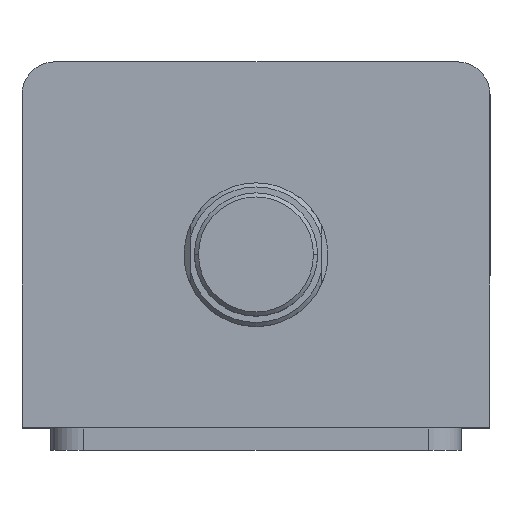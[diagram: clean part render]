
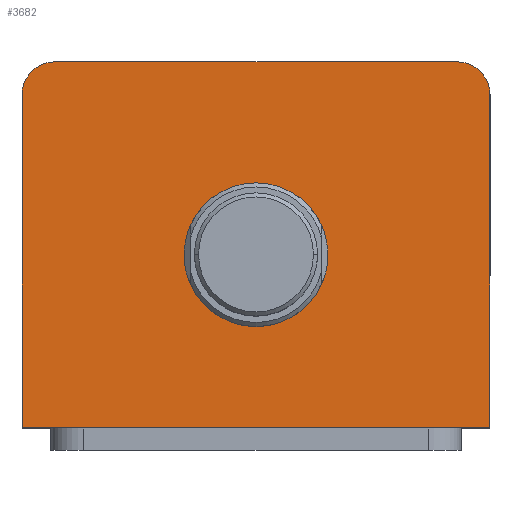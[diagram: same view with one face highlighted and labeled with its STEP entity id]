
A CAD part, top view. The second image highlights one B-rep face of the part: STEP entity #3682.
In plain terms, the highlighted planar face has unit normal (0, 0, 1).
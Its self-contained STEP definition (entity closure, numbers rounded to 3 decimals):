
#26 = CARTESIAN_POINT ( 'NONE',  ( -57., -44.5, 122. ) ) ;
#28 = CARTESIAN_POINT ( 'NONE',  ( 17.5, -2.5, 122. ) ) ;
#29 = CARTESIAN_POINT ( 'NONE',  ( -17.5, -2.5, 122. ) ) ;
#30 = CARTESIAN_POINT ( 'NONE',  ( 57., -44.5, 122. ) ) ;
#114 = VERTEX_POINT ( 'NONE', #410 ) ;
#410 = CARTESIAN_POINT ( 'NONE',  ( -57., 36.5, 122. ) ) ;
#587 = CARTESIAN_POINT ( 'NONE',  ( 57., 36.5, 122. ) ) ;
#626 = EDGE_CURVE ( 'NONE', #1388, #114, #2802, .T. ) ;
#762 = DIRECTION ( 'NONE',  ( 1., 0., 0. ) ) ;
#789 = CARTESIAN_POINT ( 'NONE',  ( -57., -44.5, 122. ) ) ;
#828 = DIRECTION ( 'NONE',  ( 1., 0., 0. ) ) ;
#829 = DIRECTION ( 'NONE',  ( 0., 0., 1. ) ) ;
#830 = CARTESIAN_POINT ( 'NONE',  ( 0., -2.5, 122. ) ) ;
#838 = DIRECTION ( 'NONE',  ( 1., 0., 0. ) ) ;
#839 = DIRECTION ( 'NONE',  ( 0., 0., 1. ) ) ;
#840 = CARTESIAN_POINT ( 'NONE',  ( 0., -2.5, 122. ) ) ;
#1016 = DIRECTION ( 'NONE',  ( 1., 0., 0. ) ) ;
#1017 = DIRECTION ( 'NONE',  ( 0., 0., 1. ) ) ;
#1027 = CARTESIAN_POINT ( 'NONE',  ( 0., 0., 122. ) ) ;
#1029 = PLANE ( 'NONE',  #2359 ) ;
#1137 = ORIENTED_EDGE ( 'NONE', *, *, #1995, .T. ) ;
#1138 = ORIENTED_EDGE ( 'NONE', *, *, #2017, .T. ) ;
#1155 = ORIENTED_EDGE ( 'NONE', *, *, #2032, .T. ) ;
#1156 = ORIENTED_EDGE ( 'NONE', *, *, #1477, .T. ) ;
#1157 = ORIENTED_EDGE ( 'NONE', *, *, #626, .T. ) ;
#1158 = ORIENTED_EDGE ( 'NONE', *, *, #1999, .T. ) ;
#1159 = ORIENTED_EDGE ( 'NONE', *, *, #2041, .F. ) ;
#1160 = ORIENTED_EDGE ( 'NONE', *, *, #2038, .F. ) ;
#1367 = VERTEX_POINT ( 'NONE', #3072 ) ;
#1388 = VERTEX_POINT ( 'NONE', #3069 ) ;
#1477 = EDGE_CURVE ( 'NONE', #114, #2519, #2876, .T. ) ;
#1646 = FACE_BOUND ( 'NONE', #1980, .T. ) ;
#1654 = FACE_OUTER_BOUND ( 'NONE', #1982, .T. ) ;
#1980 = EDGE_LOOP ( 'NONE', ( #1160, #1159 ) ) ;
#1982 = EDGE_LOOP ( 'NONE', ( #1158, #1157, #1156, #1155, #1138, #1137 ) ) ;
#1995 = EDGE_CURVE ( 'NONE', #2635, #1367, #2910, .T. ) ;
#1999 = EDGE_CURVE ( 'NONE', #1367, #1388, #2923, .T. ) ;
#2017 = EDGE_CURVE ( 'NONE', #2523, #2635, #2952, .T. ) ;
#2032 = EDGE_CURVE ( 'NONE', #2519, #2523, #2982, .T. ) ;
#2038 = EDGE_CURVE ( 'NONE', #2521, #2522, #2992, .T. ) ;
#2041 = EDGE_CURVE ( 'NONE', #2522, #2521, #2996, .T. ) ;
#2230 = AXIS2_PLACEMENT_3D ( 'NONE', #3260, #3259, #3258 ) ;
#2278 = AXIS2_PLACEMENT_3D ( 'NONE', #3415, #3414, #3413 ) ;
#2289 = AXIS2_PLACEMENT_3D ( 'NONE', #840, #839, #838 ) ;
#2291 = AXIS2_PLACEMENT_3D ( 'NONE', #830, #829, #828 ) ;
#2359 = AXIS2_PLACEMENT_3D ( 'NONE', #1027, #1017, #1016 ) ;
#2519 = VERTEX_POINT ( 'NONE', #26 ) ;
#2521 = VERTEX_POINT ( 'NONE', #28 ) ;
#2522 = VERTEX_POINT ( 'NONE', #29 ) ;
#2523 = VERTEX_POINT ( 'NONE', #30 ) ;
#2635 = VERTEX_POINT ( 'NONE', #587 ) ;
#2802 = CIRCLE ( 'NONE', #2230, 8. ) ;
#2876 = LINE ( 'NONE', #3441, #2881 ) ;
#2881 = VECTOR ( 'NONE', #3442, 1000. ) ;
#2910 = CIRCLE ( 'NONE', #2278, 8. ) ;
#2923 = LINE ( 'NONE', #3395, #2926 ) ;
#2926 = VECTOR ( 'NONE', #3416, 1000. ) ;
#2952 = LINE ( 'NONE', #3327, #2955 ) ;
#2955 = VECTOR ( 'NONE', #3337, 1000. ) ;
#2982 = LINE ( 'NONE', #789, #2985 ) ;
#2985 = VECTOR ( 'NONE', #762, 1000. ) ;
#2992 = CIRCLE ( 'NONE', #2289, 17.5 ) ;
#2996 = CIRCLE ( 'NONE', #2291, 17.5 ) ;
#3069 = CARTESIAN_POINT ( 'NONE',  ( -49., 44.5, 122. ) ) ;
#3072 = CARTESIAN_POINT ( 'NONE',  ( 49., 44.5, 122. ) ) ;
#3258 = DIRECTION ( 'NONE',  ( 1., 0., 0. ) ) ;
#3259 = DIRECTION ( 'NONE',  ( 0., 0., 1. ) ) ;
#3260 = CARTESIAN_POINT ( 'NONE',  ( -49., 36.5, 122. ) ) ;
#3327 = CARTESIAN_POINT ( 'NONE',  ( 57., 44.5, 122. ) ) ;
#3337 = DIRECTION ( 'NONE',  ( 0., 1., 0. ) ) ;
#3395 = CARTESIAN_POINT ( 'NONE',  ( -57., 44.5, 122. ) ) ;
#3413 = DIRECTION ( 'NONE',  ( 1., 0., 0. ) ) ;
#3414 = DIRECTION ( 'NONE',  ( 0., 0., 1. ) ) ;
#3415 = CARTESIAN_POINT ( 'NONE',  ( 49., 36.5, 122. ) ) ;
#3416 = DIRECTION ( 'NONE',  ( -1., 0., 0. ) ) ;
#3441 = CARTESIAN_POINT ( 'NONE',  ( -57., 44.5, 122. ) ) ;
#3442 = DIRECTION ( 'NONE',  ( 0., -1., 0. ) ) ;
#3682 = ADVANCED_FACE ( 'NONE', ( #1646, #1654 ), #1029, .T. ) ;
